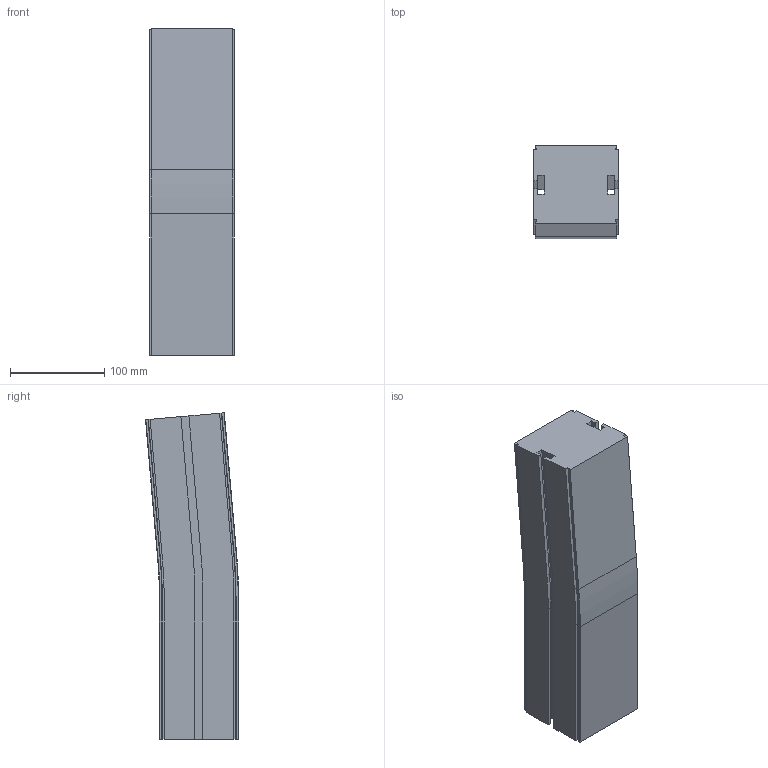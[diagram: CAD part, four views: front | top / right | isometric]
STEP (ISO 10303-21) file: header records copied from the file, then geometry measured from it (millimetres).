
FILE_DESCRIPTION (( 'STEP AP214' ), '1' );
FILE_NAME ('927757 CS090SL Verticale bochtsectie R500 5°.STEP', '2014-03-20T15:02:12', ( 'Beheerder' ), ( '' ), 'SwSTEP 2.0', 'SolidWorks 2012', '' );
FILE_SCHEMA (( 'AUTOMOTIVE_DESIGN' ));
Length unit declared in the file: millimetre
Products named in the file (1): 927757 CS090SL Verticale bochtsectie R500 5°
Bounding box: 90 x 98.82 x 346.67 mm (x, y, z)
Volume: 2458568.6 mm3; surface area: 170304.9 mm2
Topology: 1 solids, 1 shells, 98 faces, 272 edges, 176 vertices
Faces by surface type: plane 72, cylinder 18, cone 8
Entity records: 3126 total; most frequent: CARTESIAN_POINT 547, ORIENTED_EDGE 544, DIRECTION 514, EDGE_CURVE 272, LINE 228, VECTOR 228, VERTEX_POINT 176, AXIS2_PLACEMENT_3D 143
